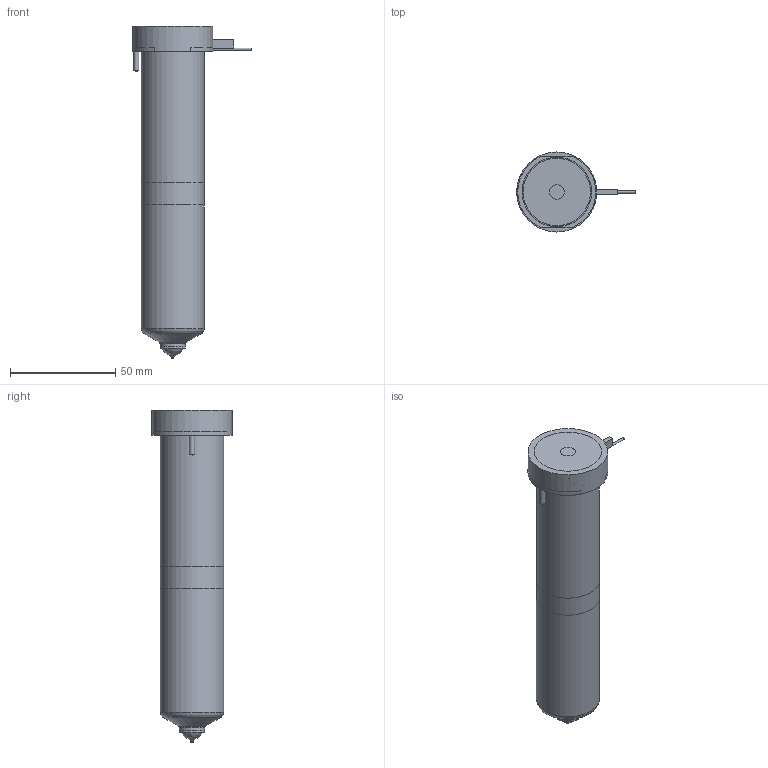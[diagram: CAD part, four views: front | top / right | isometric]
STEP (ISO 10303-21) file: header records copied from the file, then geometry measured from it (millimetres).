
FILE_DESCRIPTION(/* description */ (''),/* implementation_level */ '2;1');
FILE_NAME(/* name */ 'BXTT-BXIT16145_200C_b',/* time_stamp */ '2007-01-18T09:59:21+13:00',/* author */ (''),/* organization */ (''),/* preprocessor_version */ 'ST-DEVELOPER v9',/* originating_system */ 'UGS - NX 4.0',/* authorisation */ '');
FILE_SCHEMA (('CONFIG_CONTROL_DESIGN'));
Length unit declared in the file: millimetre
Products named in the file (1): BXTT-BXIT16145_200C_b
Bounding box: 56.25 x 38 x 157.58 mm (x, y, z)
Volume: 198007.9 mm3; surface area: 34786.8 mm2
Topology: 6 solids, 6 shells, 79 faces, 158 edges, 101 vertices
Faces by surface type: plane 35, cylinder 23, cone 11, torus 8, bspline 2
Full cylindrical faces by diameter (mm): 1 x4, 2.5 x2, 7 x1, 11.61 x1, 12.01 x2, 14.8 x1, 25.4 x1, 30 x2, 38 x1
Entity records: 1975 total; most frequent: CARTESIAN_POINT 410, DIRECTION 328, ORIENTED_EDGE 230, AXIS2_PLACEMENT_3D 145, EDGE_LOOP 122, EDGE_CURVE 115, VERTEX_POINT 92, ADVANCED_FACE 79
